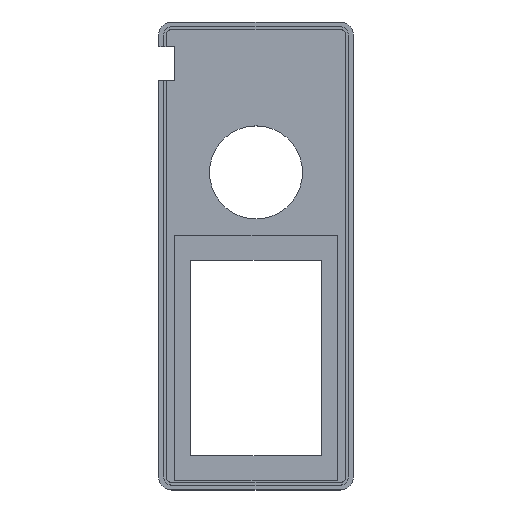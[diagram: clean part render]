
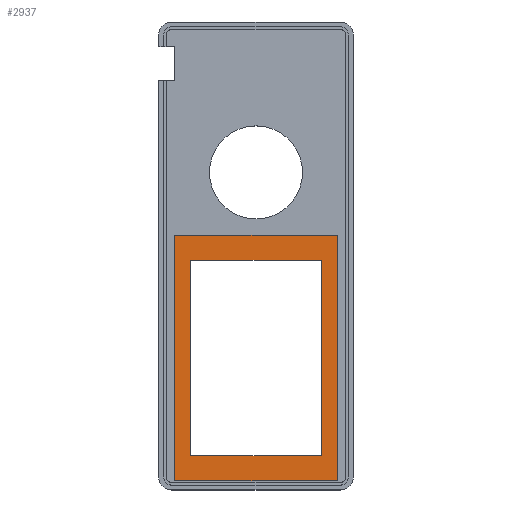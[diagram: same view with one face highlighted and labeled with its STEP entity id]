
A CAD part, top view. The second image highlights one B-rep face of the part: STEP entity #2937.
In plain terms, the highlighted planar face has unit normal (0, 0, 1).
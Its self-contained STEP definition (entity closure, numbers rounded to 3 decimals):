
#505 = PLANE('',#506);
#506 = AXIS2_PLACEMENT_3D('',#507,#508,#509);
#507 = CARTESIAN_POINT('',(12.126,87.343,2.));
#508 = DIRECTION('',(0.,-1.,0.));
#509 = DIRECTION('',(0.,0.,-1.));
#533 = PLANE('',#534);
#534 = AXIS2_PLACEMENT_3D('',#535,#536,#537);
#535 = CARTESIAN_POINT('',(12.126,87.343,2.));
#536 = DIRECTION('',(1.,0.,0.));
#537 = DIRECTION('',(0.,0.,-1.));
#561 = PLANE('',#562);
#562 = AXIS2_PLACEMENT_3D('',#563,#564,#565);
#563 = CARTESIAN_POINT('',(12.126,13.103,2.));
#564 = DIRECTION('',(0.,-1.,0.));
#565 = DIRECTION('',(0.,0.,-1.));
#587 = PLANE('',#588);
#588 = AXIS2_PLACEMENT_3D('',#589,#590,#591);
#589 = CARTESIAN_POINT('',(61.886,87.343,2.));
#590 = DIRECTION('',(1.,0.,0.));
#591 = DIRECTION('',(0.,0.,-1.));
#1666 = VERTEX_POINT('',#1667);
#1667 = CARTESIAN_POINT('',(61.886,87.343,0.4));
#1688 = EDGE_CURVE('',#1666,#1689,#1691,.T.);
#1689 = VERTEX_POINT('',#1690);
#1690 = CARTESIAN_POINT('',(12.126,87.343,0.4));
#1691 = SURFACE_CURVE('',#1692,(#1696,#1703),.PCURVE_S1.);
#1692 = LINE('',#1693,#1694);
#1693 = CARTESIAN_POINT('',(9.113,87.343,0.4));
#1694 = VECTOR('',#1695,1.);
#1695 = DIRECTION('',(-1.,-0.,0.));
#1696 = PCURVE('',#505,#1697);
#1697 = DEFINITIONAL_REPRESENTATION('',(#1698),#1702);
#1698 = LINE('',#1699,#1700);
#1699 = CARTESIAN_POINT('',(1.6,-3.013));
#1700 = VECTOR('',#1701,1.);
#1701 = DIRECTION('',(-0.,-1.));
#1702 = ( GEOMETRIC_REPRESENTATION_CONTEXT(2) 
PARAMETRIC_REPRESENTATION_CONTEXT() REPRESENTATION_CONTEXT('2D SPACE',''
  ) );
#1703 = PCURVE('',#1704,#1709);
#1704 = PLANE('',#1705);
#1705 = AXIS2_PLACEMENT_3D('',#1706,#1707,#1708);
#1706 = CARTESIAN_POINT('',(6.1,96.847,0.4));
#1707 = DIRECTION('',(0.,0.,-1.));
#1708 = DIRECTION('',(1.,0.,0.));
#1709 = DEFINITIONAL_REPRESENTATION('',(#1710),#1714);
#1710 = LINE('',#1711,#1712);
#1711 = CARTESIAN_POINT('',(3.013,9.503));
#1712 = VECTOR('',#1713,1.);
#1713 = DIRECTION('',(-1.,0.));
#1714 = ( GEOMETRIC_REPRESENTATION_CONTEXT(2) 
PARAMETRIC_REPRESENTATION_CONTEXT() REPRESENTATION_CONTEXT('2D SPACE',''
  ) );
#1742 = EDGE_CURVE('',#1666,#1743,#1745,.T.);
#1743 = VERTEX_POINT('',#1744);
#1744 = CARTESIAN_POINT('',(61.886,13.103,0.4));
#1745 = SURFACE_CURVE('',#1746,(#1750,#1757),.PCURVE_S1.);
#1746 = LINE('',#1747,#1748);
#1747 = CARTESIAN_POINT('',(61.886,92.095,0.4));
#1748 = VECTOR('',#1749,1.);
#1749 = DIRECTION('',(0.,-1.,0.));
#1750 = PCURVE('',#587,#1751);
#1751 = DEFINITIONAL_REPRESENTATION('',(#1752),#1756);
#1752 = LINE('',#1753,#1754);
#1753 = CARTESIAN_POINT('',(1.6,4.752));
#1754 = VECTOR('',#1755,1.);
#1755 = DIRECTION('',(0.,-1.));
#1756 = ( GEOMETRIC_REPRESENTATION_CONTEXT(2) 
PARAMETRIC_REPRESENTATION_CONTEXT() REPRESENTATION_CONTEXT('2D SPACE',''
  ) );
#1757 = PCURVE('',#1704,#1758);
#1758 = DEFINITIONAL_REPRESENTATION('',(#1759),#1763);
#1759 = LINE('',#1760,#1761);
#1760 = CARTESIAN_POINT('',(55.786,4.752));
#1761 = VECTOR('',#1762,1.);
#1762 = DIRECTION('',(0.,1.));
#1763 = ( GEOMETRIC_REPRESENTATION_CONTEXT(2) 
PARAMETRIC_REPRESENTATION_CONTEXT() REPRESENTATION_CONTEXT('2D SPACE',''
  ) );
#1791 = EDGE_CURVE('',#1689,#1792,#1794,.T.);
#1792 = VERTEX_POINT('',#1793);
#1793 = CARTESIAN_POINT('',(12.126,13.103,0.4));
#1794 = SURFACE_CURVE('',#1795,(#1799,#1806),.PCURVE_S1.);
#1795 = LINE('',#1796,#1797);
#1796 = CARTESIAN_POINT('',(12.126,92.095,0.4));
#1797 = VECTOR('',#1798,1.);
#1798 = DIRECTION('',(0.,-1.,0.));
#1799 = PCURVE('',#533,#1800);
#1800 = DEFINITIONAL_REPRESENTATION('',(#1801),#1805);
#1801 = LINE('',#1802,#1803);
#1802 = CARTESIAN_POINT('',(1.6,4.752));
#1803 = VECTOR('',#1804,1.);
#1804 = DIRECTION('',(0.,-1.));
#1805 = ( GEOMETRIC_REPRESENTATION_CONTEXT(2) 
PARAMETRIC_REPRESENTATION_CONTEXT() REPRESENTATION_CONTEXT('2D SPACE',''
  ) );
#1806 = PCURVE('',#1704,#1807);
#1807 = DEFINITIONAL_REPRESENTATION('',(#1808),#1812);
#1808 = LINE('',#1809,#1810);
#1809 = CARTESIAN_POINT('',(6.026,4.752));
#1810 = VECTOR('',#1811,1.);
#1811 = DIRECTION('',(0.,1.));
#1812 = ( GEOMETRIC_REPRESENTATION_CONTEXT(2) 
PARAMETRIC_REPRESENTATION_CONTEXT() REPRESENTATION_CONTEXT('2D SPACE',''
  ) );
#1840 = EDGE_CURVE('',#1743,#1792,#1841,.T.);
#1841 = SURFACE_CURVE('',#1842,(#1846,#1853),.PCURVE_S1.);
#1842 = LINE('',#1843,#1844);
#1843 = CARTESIAN_POINT('',(9.113,13.103,0.4));
#1844 = VECTOR('',#1845,1.);
#1845 = DIRECTION('',(-1.,-0.,0.));
#1846 = PCURVE('',#561,#1847);
#1847 = DEFINITIONAL_REPRESENTATION('',(#1848),#1852);
#1848 = LINE('',#1849,#1850);
#1849 = CARTESIAN_POINT('',(1.6,-3.013));
#1850 = VECTOR('',#1851,1.);
#1851 = DIRECTION('',(-0.,-1.));
#1852 = ( GEOMETRIC_REPRESENTATION_CONTEXT(2) 
PARAMETRIC_REPRESENTATION_CONTEXT() REPRESENTATION_CONTEXT('2D SPACE',''
  ) );
#1853 = PCURVE('',#1704,#1854);
#1854 = DEFINITIONAL_REPRESENTATION('',(#1855),#1859);
#1855 = LINE('',#1856,#1857);
#1856 = CARTESIAN_POINT('',(3.013,83.743));
#1857 = VECTOR('',#1858,1.);
#1858 = DIRECTION('',(-1.,0.));
#1859 = ( GEOMETRIC_REPRESENTATION_CONTEXT(2) 
PARAMETRIC_REPRESENTATION_CONTEXT() REPRESENTATION_CONTEXT('2D SPACE',''
  ) );
#2621 = PLANE('',#2622);
#2622 = AXIS2_PLACEMENT_3D('',#2623,#2624,#2625);
#2623 = CARTESIAN_POINT('',(6.1,96.847,1.7));
#2624 = DIRECTION('',(0.,-1.,0.));
#2625 = DIRECTION('',(0.,0.,-1.));
#2649 = PLANE('',#2650);
#2650 = AXIS2_PLACEMENT_3D('',#2651,#2652,#2653);
#2651 = CARTESIAN_POINT('',(6.1,96.847,1.7));
#2652 = DIRECTION('',(1.,0.,0.));
#2653 = DIRECTION('',(0.,0.,-1.));
#2677 = PLANE('',#2678);
#2678 = AXIS2_PLACEMENT_3D('',#2679,#2680,#2681);
#2679 = CARTESIAN_POINT('',(6.1,3.6,1.7));
#2680 = DIRECTION('',(0.,-1.,0.));
#2681 = DIRECTION('',(0.,0.,-1.));
#2703 = PLANE('',#2704);
#2704 = AXIS2_PLACEMENT_3D('',#2705,#2706,#2707);
#2705 = CARTESIAN_POINT('',(67.911,96.847,1.7));
#2706 = DIRECTION('',(1.,0.,0.));
#2707 = DIRECTION('',(0.,0.,-1.));
#2937 = ADVANCED_FACE('',(#2938,#3032),#1704,.F.);
#2938 = FACE_BOUND('',#2939,.F.);
#2939 = EDGE_LOOP('',(#2940,#2965,#2988,#3011));
#2940 = ORIENTED_EDGE('',*,*,#2941,.F.);
#2941 = EDGE_CURVE('',#2942,#2944,#2946,.T.);
#2942 = VERTEX_POINT('',#2943);
#2943 = CARTESIAN_POINT('',(6.1,96.847,0.4));
#2944 = VERTEX_POINT('',#2945);
#2945 = CARTESIAN_POINT('',(6.1,3.6,0.4));
#2946 = SURFACE_CURVE('',#2947,(#2951,#2958),.PCURVE_S1.);
#2947 = LINE('',#2948,#2949);
#2948 = CARTESIAN_POINT('',(6.1,96.847,0.4));
#2949 = VECTOR('',#2950,1.);
#2950 = DIRECTION('',(0.,-1.,0.));
#2951 = PCURVE('',#1704,#2952);
#2952 = DEFINITIONAL_REPRESENTATION('',(#2953),#2957);
#2953 = LINE('',#2954,#2955);
#2954 = CARTESIAN_POINT('',(0.,0.));
#2955 = VECTOR('',#2956,1.);
#2956 = DIRECTION('',(0.,1.));
#2957 = ( GEOMETRIC_REPRESENTATION_CONTEXT(2) 
PARAMETRIC_REPRESENTATION_CONTEXT() REPRESENTATION_CONTEXT('2D SPACE',''
  ) );
#2958 = PCURVE('',#2649,#2959);
#2959 = DEFINITIONAL_REPRESENTATION('',(#2960),#2964);
#2960 = LINE('',#2961,#2962);
#2961 = CARTESIAN_POINT('',(1.3,0.));
#2962 = VECTOR('',#2963,1.);
#2963 = DIRECTION('',(0.,-1.));
#2964 = ( GEOMETRIC_REPRESENTATION_CONTEXT(2) 
PARAMETRIC_REPRESENTATION_CONTEXT() REPRESENTATION_CONTEXT('2D SPACE',''
  ) );
#2965 = ORIENTED_EDGE('',*,*,#2966,.T.);
#2966 = EDGE_CURVE('',#2942,#2967,#2969,.T.);
#2967 = VERTEX_POINT('',#2968);
#2968 = CARTESIAN_POINT('',(67.911,96.847,0.4));
#2969 = SURFACE_CURVE('',#2970,(#2974,#2981),.PCURVE_S1.);
#2970 = LINE('',#2971,#2972);
#2971 = CARTESIAN_POINT('',(6.1,96.847,0.4));
#2972 = VECTOR('',#2973,1.);
#2973 = DIRECTION('',(1.,0.,0.));
#2974 = PCURVE('',#1704,#2975);
#2975 = DEFINITIONAL_REPRESENTATION('',(#2976),#2980);
#2976 = LINE('',#2977,#2978);
#2977 = CARTESIAN_POINT('',(0.,0.));
#2978 = VECTOR('',#2979,1.);
#2979 = DIRECTION('',(1.,0.));
#2980 = ( GEOMETRIC_REPRESENTATION_CONTEXT(2) 
PARAMETRIC_REPRESENTATION_CONTEXT() REPRESENTATION_CONTEXT('2D SPACE',''
  ) );
#2981 = PCURVE('',#2621,#2982);
#2982 = DEFINITIONAL_REPRESENTATION('',(#2983),#2987);
#2983 = LINE('',#2984,#2985);
#2984 = CARTESIAN_POINT('',(1.3,0.));
#2985 = VECTOR('',#2986,1.);
#2986 = DIRECTION('',(0.,1.));
#2987 = ( GEOMETRIC_REPRESENTATION_CONTEXT(2) 
PARAMETRIC_REPRESENTATION_CONTEXT() REPRESENTATION_CONTEXT('2D SPACE',''
  ) );
#2988 = ORIENTED_EDGE('',*,*,#2989,.T.);
#2989 = EDGE_CURVE('',#2967,#2990,#2992,.T.);
#2990 = VERTEX_POINT('',#2991);
#2991 = CARTESIAN_POINT('',(67.911,3.6,0.4));
#2992 = SURFACE_CURVE('',#2993,(#2997,#3004),.PCURVE_S1.);
#2993 = LINE('',#2994,#2995);
#2994 = CARTESIAN_POINT('',(67.911,96.847,0.4));
#2995 = VECTOR('',#2996,1.);
#2996 = DIRECTION('',(0.,-1.,0.));
#2997 = PCURVE('',#1704,#2998);
#2998 = DEFINITIONAL_REPRESENTATION('',(#2999),#3003);
#2999 = LINE('',#3000,#3001);
#3000 = CARTESIAN_POINT('',(61.811,0.));
#3001 = VECTOR('',#3002,1.);
#3002 = DIRECTION('',(0.,1.));
#3003 = ( GEOMETRIC_REPRESENTATION_CONTEXT(2) 
PARAMETRIC_REPRESENTATION_CONTEXT() REPRESENTATION_CONTEXT('2D SPACE',''
  ) );
#3004 = PCURVE('',#2703,#3005);
#3005 = DEFINITIONAL_REPRESENTATION('',(#3006),#3010);
#3006 = LINE('',#3007,#3008);
#3007 = CARTESIAN_POINT('',(1.3,0.));
#3008 = VECTOR('',#3009,1.);
#3009 = DIRECTION('',(0.,-1.));
#3010 = ( GEOMETRIC_REPRESENTATION_CONTEXT(2) 
PARAMETRIC_REPRESENTATION_CONTEXT() REPRESENTATION_CONTEXT('2D SPACE',''
  ) );
#3011 = ORIENTED_EDGE('',*,*,#3012,.F.);
#3012 = EDGE_CURVE('',#2944,#2990,#3013,.T.);
#3013 = SURFACE_CURVE('',#3014,(#3018,#3025),.PCURVE_S1.);
#3014 = LINE('',#3015,#3016);
#3015 = CARTESIAN_POINT('',(6.1,3.6,0.4));
#3016 = VECTOR('',#3017,1.);
#3017 = DIRECTION('',(1.,0.,0.));
#3018 = PCURVE('',#1704,#3019);
#3019 = DEFINITIONAL_REPRESENTATION('',(#3020),#3024);
#3020 = LINE('',#3021,#3022);
#3021 = CARTESIAN_POINT('',(0.,93.247));
#3022 = VECTOR('',#3023,1.);
#3023 = DIRECTION('',(1.,0.));
#3024 = ( GEOMETRIC_REPRESENTATION_CONTEXT(2) 
PARAMETRIC_REPRESENTATION_CONTEXT() REPRESENTATION_CONTEXT('2D SPACE',''
  ) );
#3025 = PCURVE('',#2677,#3026);
#3026 = DEFINITIONAL_REPRESENTATION('',(#3027),#3031);
#3027 = LINE('',#3028,#3029);
#3028 = CARTESIAN_POINT('',(1.3,0.));
#3029 = VECTOR('',#3030,1.);
#3030 = DIRECTION('',(0.,1.));
#3031 = ( GEOMETRIC_REPRESENTATION_CONTEXT(2) 
PARAMETRIC_REPRESENTATION_CONTEXT() REPRESENTATION_CONTEXT('2D SPACE',''
  ) );
#3032 = FACE_BOUND('',#3033,.F.);
#3033 = EDGE_LOOP('',(#3034,#3035,#3036,#3037));
#3034 = ORIENTED_EDGE('',*,*,#1688,.T.);
#3035 = ORIENTED_EDGE('',*,*,#1791,.T.);
#3036 = ORIENTED_EDGE('',*,*,#1840,.F.);
#3037 = ORIENTED_EDGE('',*,*,#1742,.F.);
